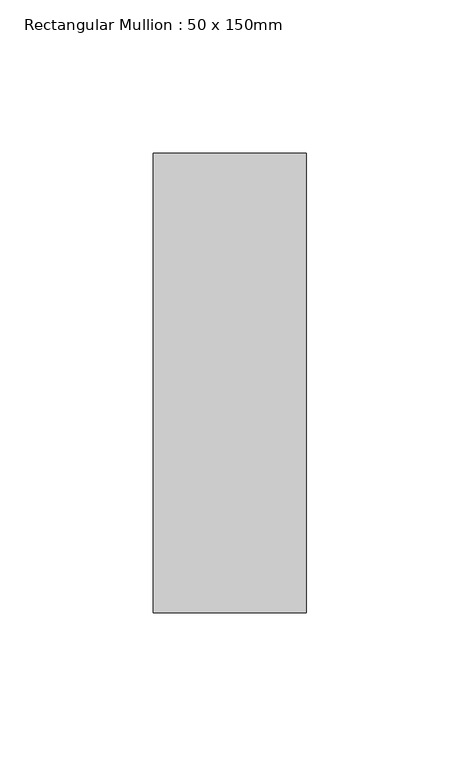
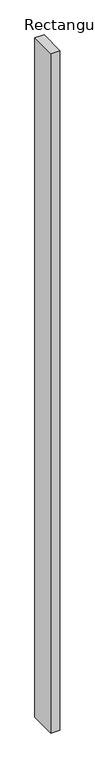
"""IFC4 building model written with IfcOpenShell, lengths in millimetres: member geometry, Rectangular Mullion : 50 x 150mm."""

from ifc_helpers import new_model, si_unit, frame, origin, place, context, project, spatial, polyline, outline, extrude, source, transform, mapped, element, save


def rectangular_mullion_50_x_150mm_402ab136(model_context):
    return source(origin(), model_context, "Body", "SweptSolid", [
        extrude(outline(polyline([(0.0, 75.0), (0.0, -75.0), (-50.0, -75.0), (-50.0, 75.0), (0.0, 75.0)])), frame((0.0, 0.0, -3925.0), z_axis=(0.0, 0.0, 1.0), x_axis=(1.0, 0.0, 0.0)), (0.0, 0.0, 1.0), 3925.0),
    ])


if __name__ == "__main__":
    model = new_model("IFC4")
    model_context = context("Model", 3, world=origin())
    ifc_project = project(units=[si_unit("LENGTHUNIT", "METRE", prefix="MILLI")], contexts=[model_context])
    site = spatial("IfcSite", under=ifc_project)
    building = spatial("IfcBuilding", under=site)
    placement = place(None, origin())
    rectangular_mullion_50_x_150mm_shape = rectangular_mullion_50_x_150mm_402ab136(model_context)
    element("IfcMember", 1, ObjectType="Rectangular Mullion : 50 x 150mm", at=placement, inside=building, context=model_context, shape_type="MappedRepresentation", body=[
        mapped(rectangular_mullion_50_x_150mm_shape, transform((0.0, 0.0, 0.0), x_axis=(1.0, 0.0, 0.0), y_axis=(0.0, 1.0, 0.0), z_axis=(0.0, 0.0, 1.0))),
    ])
    save(model, "model.ifc")
